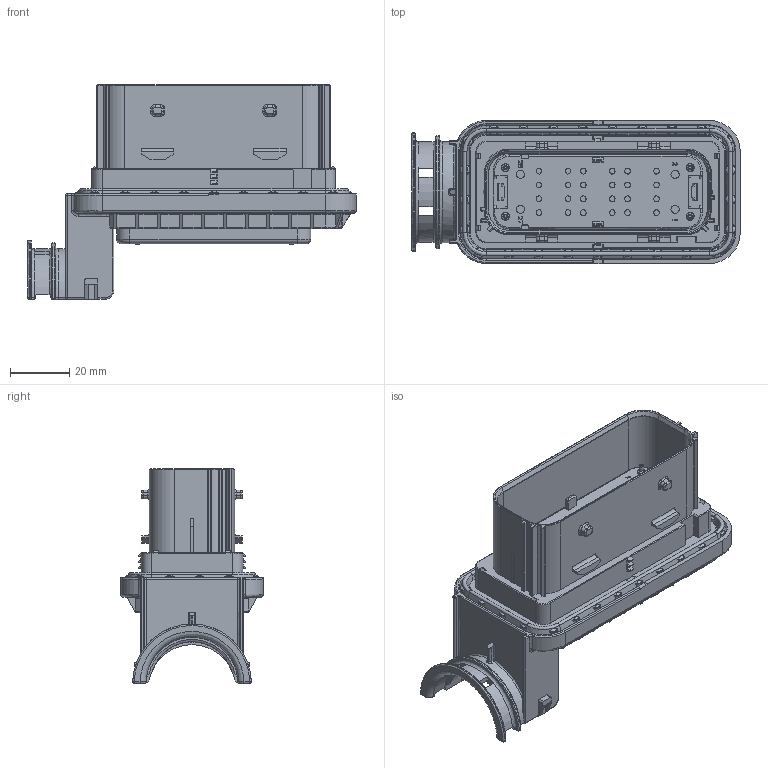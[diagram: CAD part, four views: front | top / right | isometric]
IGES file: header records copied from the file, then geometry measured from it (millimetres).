
Start section:  PTC IGES file: c-2138846-1-a-3d.igs
Global section: file name: c-2138846-1-a-3d.igs; native system: Creo Parametric by Parametric Technology Corporation; preprocessor: 2013050; author: workeradm; organization: Unknown; units: millimetre
Bounding box: 111.25 x 48.45 x 72.75 mm (x, y, z)
Surface area: 43474.1 mm2 (no closed solid volume)
Topology: 0 solids, 0 shells, 2038 faces, 10854 edges, 10854 vertices
Faces by surface type: bspline 1137, revolution 901
